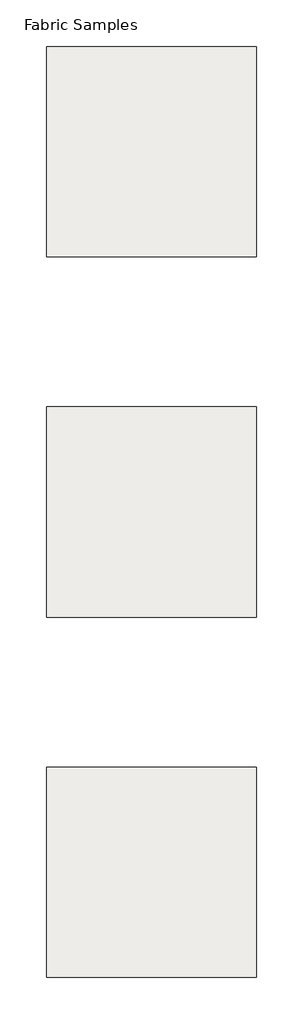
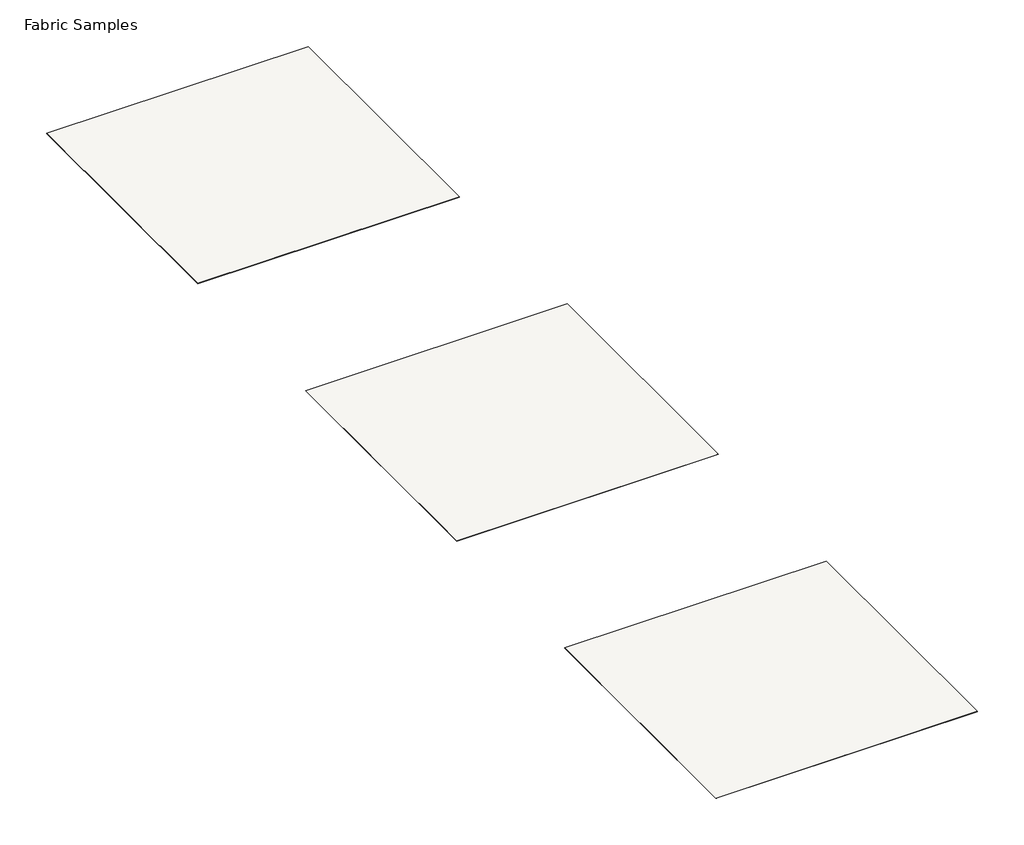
# One storey: 3 coverings.
"""IFC4 building model written with IfcOpenShell, lengths in millimetres."""

from ifc_helpers import new_model, si_unit, frame, origin, place, context, project, spatial, polyline, outline, extrude, element, save

model = new_model("IFC4")

# Units and contexts
model_context = context("Model", 3, world=origin())
ifc_project = project(units=[si_unit("LENGTHUNIT", "METRE", prefix="MILLI")], contexts=[model_context])

# Site, building, storey
site = spatial("IfcSite", under=ifc_project)
building = spatial("IfcBuilding", under=site)
storey = spatial("IfcBuildingStorey", under=building, Name="Fabric Samples", Elevation=0.0)

# Coverings
placement = place(None, origin())
element("IfcCovering", 1, ObjectType="CamiraFabrics_TxtlRllCvrngs_Dolly_Shropshire_EWE01", at=placement, inside=storey, context=model_context, shape_type="SweptSolid", body=[
    extrude(outline(polyline([(515.5073044, 1029.1514654), (515.5073044, -370.8485346), (-884.4926956, -370.8485346), (-884.4926956, 1029.1514654), (515.5073044, 1029.1514654)])), frame((0.0, 0.0, -2.0), z_axis=(0.0, 0.0, 1.0), x_axis=(1.0, 0.0, 0.0)), (0.0, 0.0, 1.0), 2.0),
])
element("IfcCovering", 2, ObjectType="CamiraFabrics_TxtlRllCvrngs_Dolly_Jacobs_EWE02", at=placement, inside=storey, context=model_context, shape_type="SweptSolid", body=[
    extrude(outline(polyline([(515.5073044, -1370.8485346), (515.5073044, -2770.8485346), (-884.4926956, -2770.8485346), (-884.4926956, -1370.8485346), (515.5073044, -1370.8485346)])), frame((0.0, 0.0, -2.0), z_axis=(0.0, 0.0, 1.0), x_axis=(1.0, 0.0, 0.0)), (0.0, 0.0, 1.0), 2.0),
])
element("IfcCovering", 3, ObjectType="CamiraFabrics_TxtlRllCvrngs_Dolly_Herdwick_EWE03", at=placement, inside=storey, context=model_context, shape_type="SweptSolid", body=[
    extrude(outline(polyline([(515.5073044, -3770.8485346), (515.5073044, -5170.8485346), (-884.4926956, -5170.8485346), (-884.4926956, -3770.8485346), (515.5073044, -3770.8485346)])), frame((0.0, 0.0, -2.0), z_axis=(0.0, 0.0, 1.0), x_axis=(1.0, 0.0, 0.0)), (0.0, 0.0, 1.0), 2.0),
])

save(model, "model.ifc")
